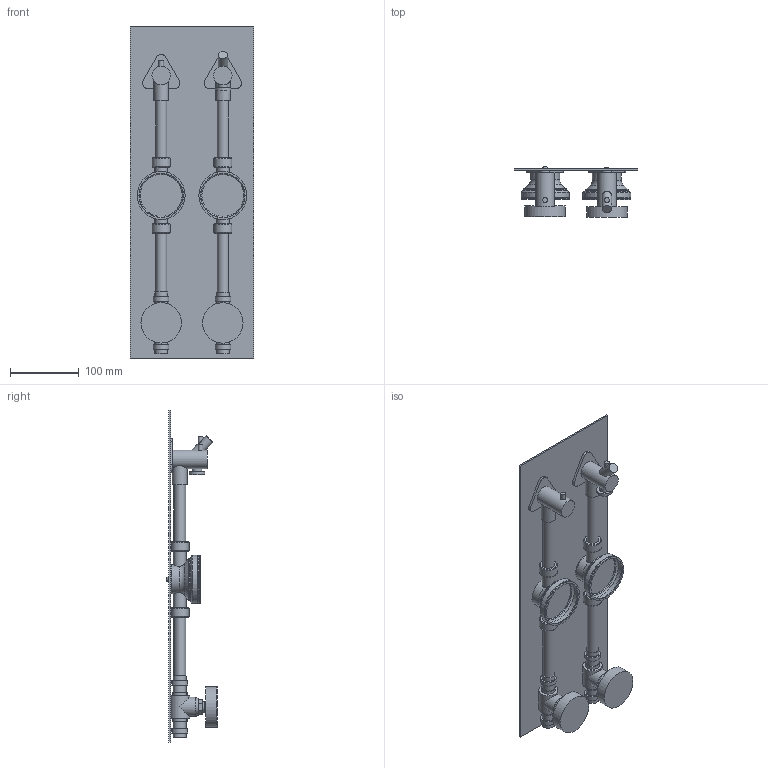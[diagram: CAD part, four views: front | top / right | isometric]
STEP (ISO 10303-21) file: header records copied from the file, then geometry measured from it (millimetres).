
FILE_DESCRIPTION(('STEP AP214'),'1');
FILE_NAME('NYFFix_7901.STP','2025-09-23T13:52:58',(' '),(' '),'Spatial InterOp 3D',' ',' ');
FILE_SCHEMA(('AUTOMOTIVE_DESIGN { 1 0 10303 214 1 1 1 1 }'));
Length unit declared in the file: millimetre
Products named in the file (1): 82204.22 (0)|82204.22 (0)_PART2#82204.22 (0)_PART2;82204.22 (0)_PART2
Bounding box: 180 x 73.5 x 484 mm (x, y, z)
Volume: 535330.5 mm3; surface area: 320029.5 mm2
Topology: 13 solids, 87 shells, 211 faces, 482 edges, 357 vertices
Faces by surface type: plane 110, cylinder 75, torus 14, cone 12
Full cylindrical faces by diameter (mm): 7 x2, 12 x4, 13.867 x1, 14 x1, 15.4 x2, 16 x4, 16.7 x2, 18 x4, 18.2 x14, 20 x4, 21 x2, 22.622 x1, 22.8 x4, 24.9 x2, 26.441 x4, 26.818 x2, 28 x4, 42.2 x2, 58.838 x2, 62.169 x2, 67 x2, 70 x4
Entity records: 7860 total; most frequent: CARTESIAN_POINT 1670, DIRECTION 1169, ORIENTED_EDGE 556, AXIS2_PLACEMENT_3D 547, EDGE_CURVE 370, EDGE_LOOP 366, VERTEX_POINT 338, FACE_BOUND 276
